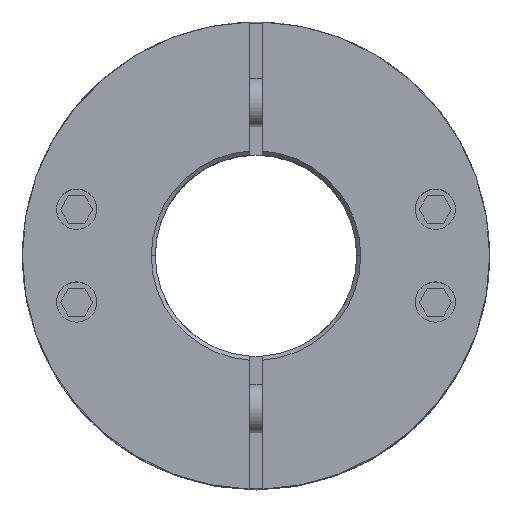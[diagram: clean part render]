
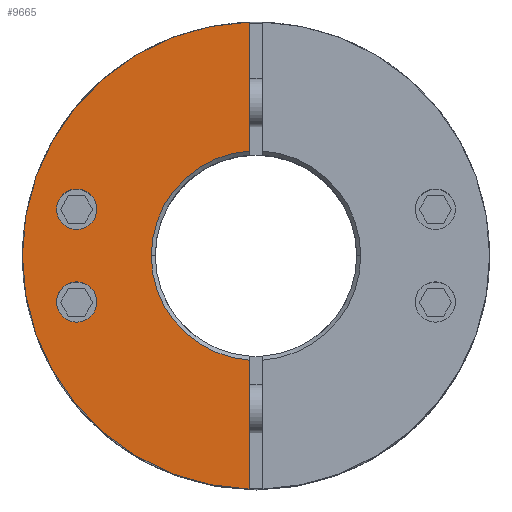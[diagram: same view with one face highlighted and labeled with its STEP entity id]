
A CAD part, top view. The second image highlights one B-rep face of the part: STEP entity #9665.
In plain terms, the highlighted planar face has unit normal (0, 0, 1).
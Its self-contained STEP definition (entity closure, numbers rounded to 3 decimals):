
#2545=CARTESIAN_POINT('',(-19.767,-5.759,27.125));
#2546=VERTEX_POINT('',#2545);
#2555=CARTESIAN_POINT('',(-24.767,-5.759,27.125));
#2556=VERTEX_POINT('',#2555);
#2557=CARTESIAN_POINT('',(-22.267,-5.759,27.125));
#2558=DIRECTION('',(0.0,0.0,-1.0));
#2559=DIRECTION('',(1.0,0.0,0.0));
#2560=AXIS2_PLACEMENT_3D('',#2557,#2558,#2559);
#2561=CIRCLE('',#2560,2.5);
#2562=EDGE_CURVE('',#2556,#2546,#2561,.T.);
#2671=CARTESIAN_POINT('',(-19.767,5.759,27.125));
#2672=VERTEX_POINT('',#2671);
#2681=CARTESIAN_POINT('',(-24.767,5.759,27.125));
#2682=VERTEX_POINT('',#2681);
#2683=CARTESIAN_POINT('',(-22.267,5.759,27.125));
#2684=DIRECTION('',(0.0,0.0,-1.0));
#2685=DIRECTION('',(1.0,0.0,0.0));
#2686=AXIS2_PLACEMENT_3D('',#2683,#2684,#2685);
#2687=CIRCLE('',#2686,2.5);
#2688=EDGE_CURVE('',#2682,#2672,#2687,.T.);
#2900=CARTESIAN_POINT('',(-29.0,0.,27.125));
#2901=VERTEX_POINT('',#2900);
#2908=CARTESIAN_POINT('',(-0.75,28.99,27.125));
#2909=VERTEX_POINT('',#2908);
#2910=CARTESIAN_POINT('',(0.0,0.0,27.125));
#2911=DIRECTION('',(0.0,0.0,-1.0));
#2912=DIRECTION('',(1.0,0.0,0.0));
#2913=AXIS2_PLACEMENT_3D('',#2910,#2911,#2912);
#2914=CIRCLE('',#2913,29.0);
#2915=EDGE_CURVE('',#2901,#2909,#2914,.T.);
#3262=CARTESIAN_POINT('',(-13.0,0.,27.125));
#3263=VERTEX_POINT('',#3262);
#3279=CARTESIAN_POINT('',(-0.75,12.978,27.125));
#3280=VERTEX_POINT('',#3279);
#3294=CARTESIAN_POINT('',(0.0,0.0,27.125));
#3295=DIRECTION('',(0.0,0.0,1.0));
#3296=DIRECTION('',(-1.0,0.0,0.0));
#3297=AXIS2_PLACEMENT_3D('',#3294,#3295,#3296);
#3298=CIRCLE('',#3297,13.0);
#3299=EDGE_CURVE('',#3280,#3263,#3298,.T.);
#9418=CARTESIAN_POINT('',(-0.75,-12.978,27.125));
#9419=VERTEX_POINT('',#9418);
#9420=CARTESIAN_POINT('',(0.0,0.0,27.125));
#9421=DIRECTION('',(0.0,0.0,1.0));
#9422=DIRECTION('',(-1.0,0.0,0.0));
#9423=AXIS2_PLACEMENT_3D('',#9420,#9421,#9422);
#9424=CIRCLE('',#9423,13.0);
#9425=EDGE_CURVE('',#3263,#9419,#9424,.T.);
#9458=CARTESIAN_POINT('',(-0.75,12.978,27.125));
#9459=DIRECTION('',(0.0,1.0,0.0));
#9460=VECTOR('',#9459,16.012);
#9461=LINE('',#9458,#9460);
#9462=EDGE_CURVE('',#3280,#2909,#9461,.T.);
#9572=CARTESIAN_POINT('',(-0.75,-28.99,27.125));
#9573=VERTEX_POINT('',#9572);
#9574=CARTESIAN_POINT('',(-0.75,-28.99,27.125));
#9575=DIRECTION('',(0.0,1.0,0.0));
#9576=VECTOR('',#9575,16.012);
#9577=LINE('',#9574,#9576);
#9578=EDGE_CURVE('',#9573,#9419,#9577,.T.);
#9626=CARTESIAN_POINT('',(2.636,0.,27.125));
#9627=DIRECTION('',(0.0,0.0,1.0));
#9628=DIRECTION('',(1.0,0.0,0.0));
#9629=AXIS2_PLACEMENT_3D('',#9626,#9627,#9628);
#9630=PLANE('',#9629);
#9631=ORIENTED_EDGE('',*,*,#3299,.F.);
#9632=ORIENTED_EDGE('',*,*,#9462,.T.);
#9633=ORIENTED_EDGE('',*,*,#2915,.F.);
#9634=CARTESIAN_POINT('',(0.0,0.0,27.125));
#9635=DIRECTION('',(0.0,0.0,-1.0));
#9636=DIRECTION('',(1.0,0.0,0.0));
#9637=AXIS2_PLACEMENT_3D('',#9634,#9635,#9636);
#9638=CIRCLE('',#9637,29.0);
#9639=EDGE_CURVE('',#9573,#2901,#9638,.T.);
#9640=ORIENTED_EDGE('',*,*,#9639,.F.);
#9641=ORIENTED_EDGE('',*,*,#9578,.T.);
#9642=ORIENTED_EDGE('',*,*,#9425,.F.);
#9643=EDGE_LOOP('',(#9631,#9632,#9633,#9640,#9641,#9642));
#9644=FACE_OUTER_BOUND('',#9643,.T.);
#9645=CARTESIAN_POINT('',(-22.267,-5.759,27.125));
#9646=DIRECTION('',(0.0,0.0,-1.0));
#9647=DIRECTION('',(1.0,0.0,0.0));
#9648=AXIS2_PLACEMENT_3D('',#9645,#9646,#9647);
#9649=CIRCLE('',#9648,2.5);
#9650=EDGE_CURVE('',#2546,#2556,#9649,.T.);
#9651=ORIENTED_EDGE('',*,*,#9650,.T.);
#9652=ORIENTED_EDGE('',*,*,#2562,.T.);
#9653=EDGE_LOOP('',(#9651,#9652));
#9654=FACE_BOUND('',#9653,.T.);
#9655=CARTESIAN_POINT('',(-22.267,5.759,27.125));
#9656=DIRECTION('',(0.0,0.0,-1.0));
#9657=DIRECTION('',(1.0,0.0,0.0));
#9658=AXIS2_PLACEMENT_3D('',#9655,#9656,#9657);
#9659=CIRCLE('',#9658,2.5);
#9660=EDGE_CURVE('',#2672,#2682,#9659,.T.);
#9661=ORIENTED_EDGE('',*,*,#9660,.T.);
#9662=ORIENTED_EDGE('',*,*,#2688,.T.);
#9663=EDGE_LOOP('',(#9661,#9662));
#9664=FACE_BOUND('',#9663,.T.);
#9665=ADVANCED_FACE('',(#9644,#9654,#9664),#9630,.T.);
